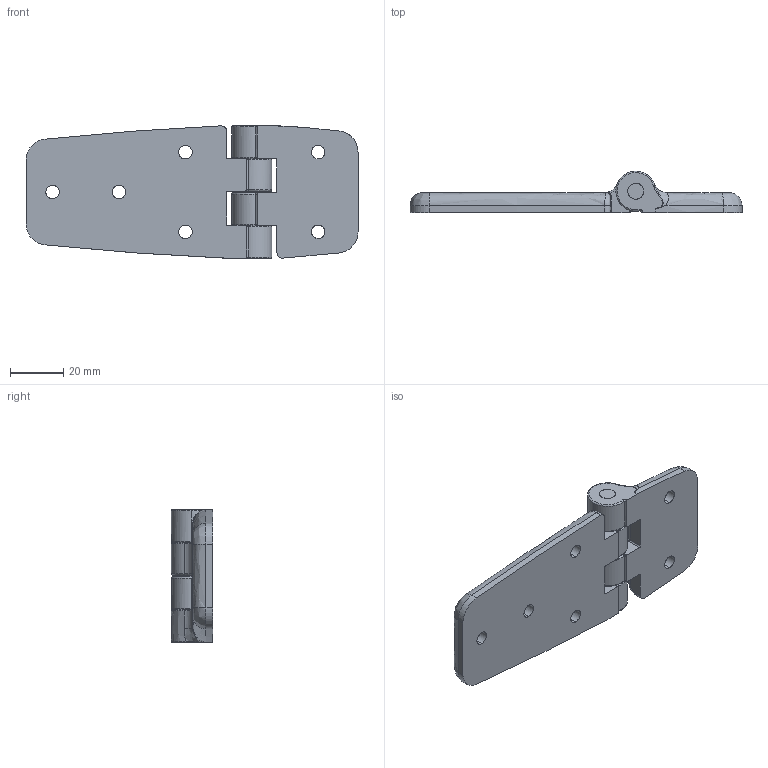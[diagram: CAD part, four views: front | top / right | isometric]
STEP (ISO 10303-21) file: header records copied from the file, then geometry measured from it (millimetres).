
FILE_DESCRIPTION (( 'STEP AP203' ), '1' );
FILE_NAME ('B64 KH-P21-3.STEP', '2021-11-12T00:23:22', ( '' ), ( '' ), 'SwSTEP 2.0', 'SolidWorks 2020', '' );
FILE_SCHEMA (( 'CONFIG_CONTROL_DESIGN' ));
Length unit declared in the file: millimetre
Products named in the file (5): 凜Щお.IGS; B64 KH-P21-2 腮瘤1.IGS; B64 KH-P21-3.IGS; B64 KH-P21-3
Assembly tree (4 placements, depth 3):
  B64 KH-P21-3
    B64 KH-P21-3.IGS
      B64 KH-P21-3.IGS
      B64 KH-P21-2 腮瘤1.IGS
      凜Щお.IGS
Bounding box: 125 x 15.5 x 50 mm (x, y, z)
Volume: 42195.1 mm3; surface area: 17930.1 mm2
Topology: 3 solids, 3 shells, 163 faces, 414 edges, 252 vertices
Faces by surface type: bspline 163
Entity records: 9199 total; most frequent: CARTESIAN_POINT 6376, ORIENTED_EDGE 816, EDGE_CURVE 408, VERTEX_POINT 252, B_SPLINE_CURVE_WITH_KNOTS 251, EDGE_LOOP 184, ADVANCED_FACE 163, FACE_OUTER_BOUND 163
